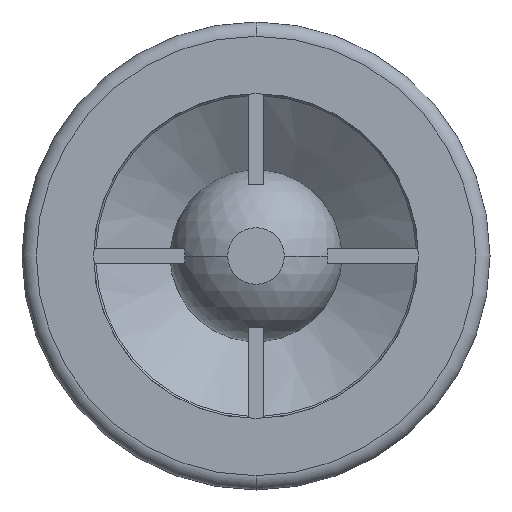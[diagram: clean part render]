
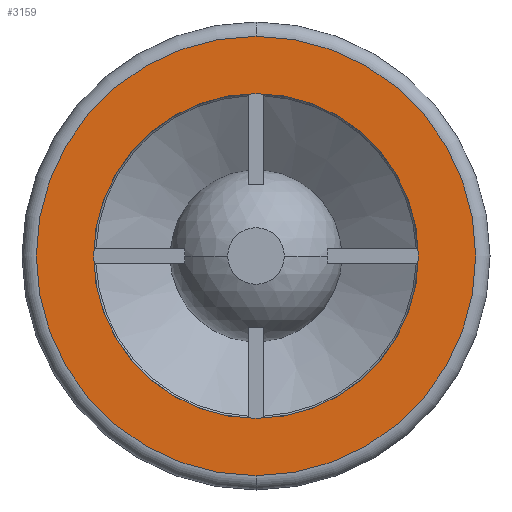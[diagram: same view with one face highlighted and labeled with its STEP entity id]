
A CAD part, front view. The second image highlights one B-rep face of the part: STEP entity #3159.
In plain terms, the highlighted planar face has unit normal (0, -1, 0).
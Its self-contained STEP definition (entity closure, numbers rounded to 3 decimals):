
#9 = ORIENTED_EDGE ( 'NONE', *, *, #10, .T. ) ;
#10 = EDGE_CURVE ( 'NONE', #2529, #2528, #312, .T. ) ;
#11 = ORIENTED_EDGE ( 'NONE', *, *, #2539, .T. ) ;
#12 = EDGE_LOOP ( 'NONE', ( #13, #14 ) ) ;
#13 = ORIENTED_EDGE ( 'NONE', *, *, #2745, .F. ) ;
#14 = ORIENTED_EDGE ( 'NONE', *, *, #2820, .F. ) ;
#305 = DIRECTION ( 'NONE',  ( 0., 0., 1. ) ) ;
#306 = DIRECTION ( 'NONE',  ( 0., -1., 0. ) ) ;
#307 = CARTESIAN_POINT ( 'NONE',  ( 0., 0., 0. ) ) ;
#308 = AXIS2_PLACEMENT_3D ( 'NONE', #307, #306, #305 ) ;
#312 = CIRCLE ( 'NONE', #308, 23. ) ;
#842 = AXIS2_PLACEMENT_3D ( 'NONE', #905, #904, #903 ) ;
#846 = CIRCLE ( 'NONE', #842, 23. ) ;
#862 = CARTESIAN_POINT ( 'NONE',  ( 0., 0., 23. ) ) ;
#863 = CARTESIAN_POINT ( 'NONE',  ( 0., 0., -23. ) ) ;
#903 = DIRECTION ( 'NONE',  ( 0., 0., 1. ) ) ;
#904 = DIRECTION ( 'NONE',  ( 0., -1., 0. ) ) ;
#905 = CARTESIAN_POINT ( 'NONE',  ( 0., 0., 0. ) ) ;
#1265 = DIRECTION ( 'NONE',  ( 0., 0., -1. ) ) ;
#1266 = DIRECTION ( 'NONE',  ( 0., -1., 0. ) ) ;
#1267 = CARTESIAN_POINT ( 'NONE',  ( 0., 0., 0. ) ) ;
#1268 = AXIS2_PLACEMENT_3D ( 'NONE', #1267, #1266, #1265 ) ;
#1269 = CIRCLE ( 'NONE', #1268, 17. ) ;
#1420 = DIRECTION ( 'NONE',  ( 0., 0., -1. ) ) ;
#1421 = DIRECTION ( 'NONE',  ( 0., -1., 0. ) ) ;
#1422 = CARTESIAN_POINT ( 'NONE',  ( 0., 0., 0. ) ) ;
#1423 = AXIS2_PLACEMENT_3D ( 'NONE', #1422, #1421, #1420 ) ;
#1424 = CIRCLE ( 'NONE', #1423, 17. ) ;
#1426 = CARTESIAN_POINT ( 'NONE',  ( 0., 0., -17. ) ) ;
#1433 = CARTESIAN_POINT ( 'NONE',  ( 0., 0., 17. ) ) ;
#2056 = DIRECTION ( 'NONE',  ( 0., 0., 1. ) ) ;
#2057 = DIRECTION ( 'NONE',  ( 0., 1., 0. ) ) ;
#2058 = CARTESIAN_POINT ( 'NONE',  ( -17., 0., 0. ) ) ;
#2060 = AXIS2_PLACEMENT_3D ( 'NONE', #2058, #2057, #2056 ) ;
#2061 = PLANE ( 'NONE',  #2060 ) ;
#2062 = FACE_BOUND ( 'NONE', #12, .T. ) ;
#2063 = FACE_OUTER_BOUND ( 'NONE', #3154, .T. ) ;
#2528 = VERTEX_POINT ( 'NONE', #863 ) ;
#2529 = VERTEX_POINT ( 'NONE', #862 ) ;
#2539 = EDGE_CURVE ( 'NONE', #2528, #2529, #846, .T. ) ;
#2745 = EDGE_CURVE ( 'NONE', #2818, #2814, #1269, .T. ) ;
#2814 = VERTEX_POINT ( 'NONE', #1433 ) ;
#2818 = VERTEX_POINT ( 'NONE', #1426 ) ;
#2820 = EDGE_CURVE ( 'NONE', #2814, #2818, #1424, .T. ) ;
#3154 = EDGE_LOOP ( 'NONE', ( #9, #11 ) ) ;
#3159 = ADVANCED_FACE ( 'NONE', ( #2063, #2062 ), #2061, .F. ) ;
